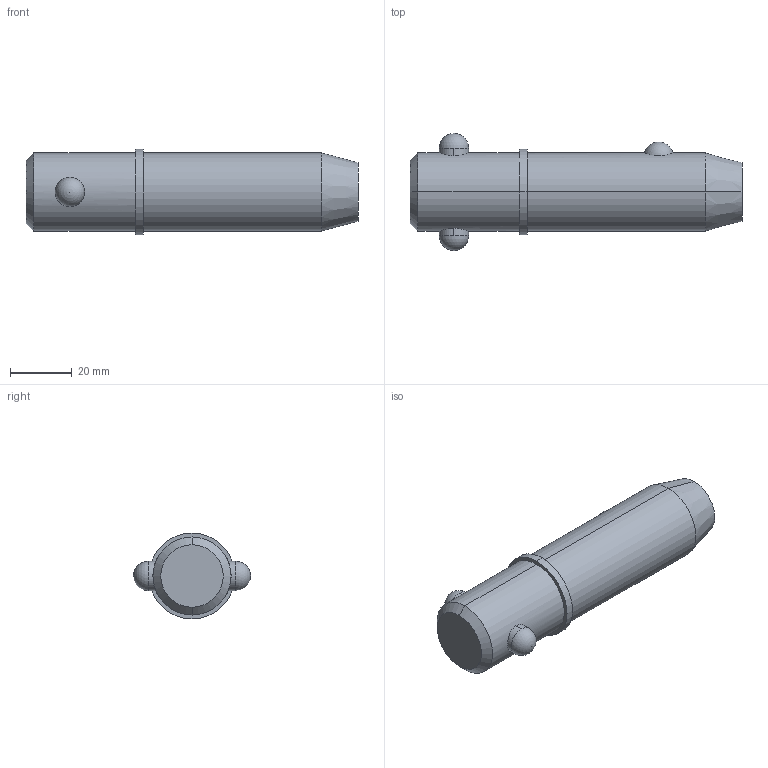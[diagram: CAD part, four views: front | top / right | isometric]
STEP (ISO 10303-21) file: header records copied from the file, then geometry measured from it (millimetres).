
FILE_DESCRIPTION (( 'STEP AP203' ), '1' );
FILE_NAME ('33018.W1015.step', '2024-11-19T17:23:53', ( '' ), ( '' ), 'SwSTEP 2.0', 'SolidWorks 2019', '' );
FILE_SCHEMA (( 'CONFIG_CONTROL_DESIGN' ));
Length unit declared in the file: millimetre
Products named in the file (3): Part1_33018.W1015; 33018.W1015; Part2_33018.W1015
Assembly tree (2 placements, depth 2):
  33018.W1015
    Part1_33018.W1015
    Part2_33018.W1015
Bounding box: 107.95 x 38.1 x 27.94 mm (x, y, z)
Volume: 54224.5 mm3; surface area: 11199.3 mm2
Topology: 2 solids, 2 shells, 22 faces, 47 edges, 30 vertices
Faces by surface type: cylinder 10, sphere 4, cone 4, plane 4
Entity records: 1071 total; most frequent: CARTESIAN_POINT 314, DIRECTION 110, ORIENTED_EDGE 82, AXIS2_PLACEMENT_3D 48, EDGE_CURVE 41, EDGE_LOOP 27, VERTEX_POINT 26, PERSON_AND_ORGANIZATION 26
